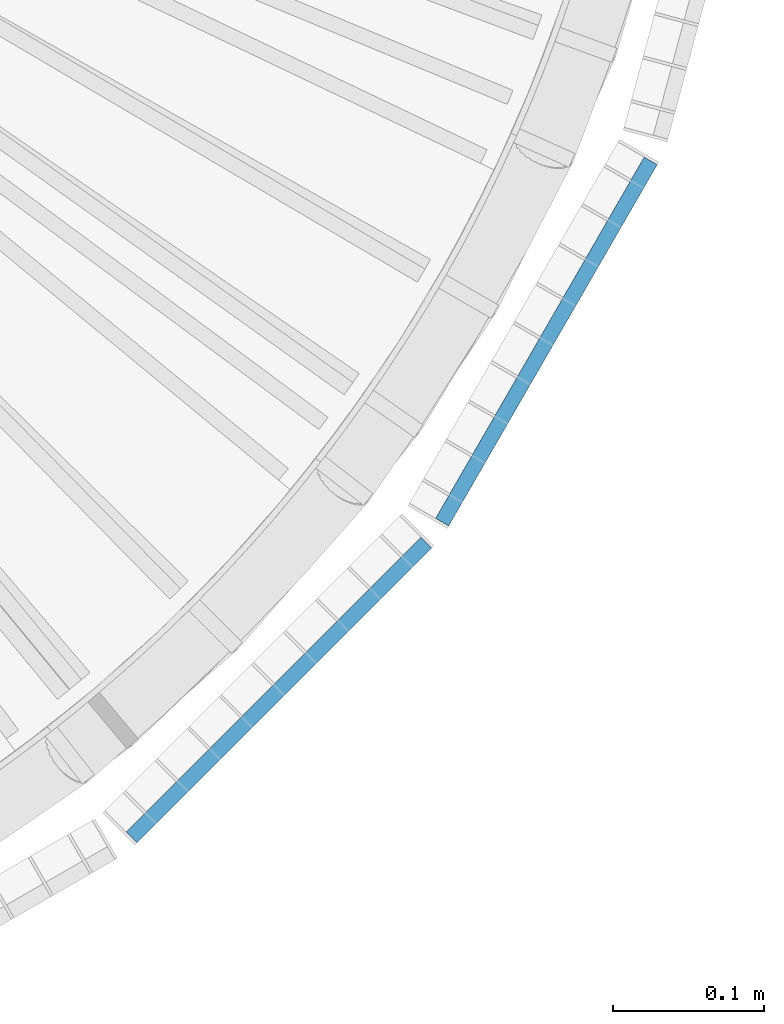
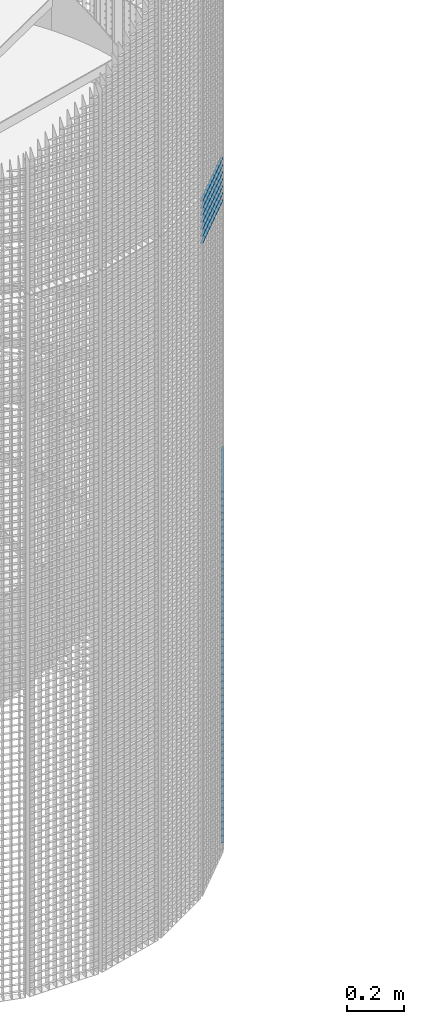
# One storey, part 266 of 1183: 58 beams, 2 elements without a shape of their own.
"""IFC2X3 building model written with IfcOpenShell, lengths in millimetres."""

from ifc_helpers import new_model, si_unit, frame, origin_with_axes, origin_2d_with_axis, place, context, subcontext, project, spatial, rectangle, extrude, material, type_object, element, aggregate, save


model = new_model("IFC2X3")

# Units and contexts
model_context = context("Model", 3, precision=1e-05, world=origin_with_axes())
body_context = subcontext(model_context, "Body", "Model", "MODEL_VIEW")
ifc_project = project(units=[si_unit("LENGTHUNIT", "METRE", prefix="MILLI"), si_unit("AREAUNIT", "SQUARE_METRE"), si_unit("VOLUMEUNIT", "CUBIC_METRE"), si_unit("MASSUNIT", "GRAM", prefix="KILO"), si_unit("TIMEUNIT", "SECOND"), si_unit("PLANEANGLEUNIT", "RADIAN"), si_unit("SOLIDANGLEUNIT", "STERADIAN"), si_unit("THERMODYNAMICTEMPERATUREUNIT", "DEGREE_CELSIUS"), si_unit("LUMINOUSINTENSITYUNIT", "LUMEN")], contexts=[model_context])

# Site, building, storey
site_placement = place(None, origin_with_axes())
site = spatial("IfcSite", under=ifc_project, at=site_placement, Name="Undefined", CompositionType="ELEMENT")
building_placement = place(site_placement, origin_with_axes())
building = spatial("IfcBuilding", under=site, at=building_placement, Name="Undefined", CompositionType="ELEMENT")
storey_placement = place(building_placement, origin_with_axes())
storey = spatial("IfcBuildingStorey", under=building, at=storey_placement, Name="Undefined", CompositionType="ELEMENT", Elevation=0.0)

# Assembly, beams
assembly_1_placement = place(storey_placement, origin_with_axes())
assembly_1 = element("IfcElementAssembly", 1, at=assembly_1_placement, inside=storey, Name="BORDURE", AssemblyPlace="NOTDEFINED", PredefinedType="NOTDEFINED")
ifc_material = material(Name="STEEL/S235JR")
beam_type = type_object("IfcBeamType", Name="PL2*10", PredefinedType="NOTDEFINED")
beam_1_placement = place(assembly_1_placement, frame((895.303964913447, -676.248044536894, 1530.0), z_axis=(0.866025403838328, -0.49999999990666, 0.0), x_axis=(0.49999999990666, 0.866025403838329, 0.0)))
beam_1 = element("IfcBeam", 2, at=beam_1_placement, type_object=beam_type, material=ifc_material, Name="ENTRETOISE", context=body_context, shape_type="SweptSolid", body=[
    extrude(rectangle(XDim=2.0, YDim=10.0, at=origin_2d_with_axis()), frame((275.999999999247, 9.09494701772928e-13, 1.53210777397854e-14), z_axis=(-1.0, 0.0, 0.0), x_axis=(0.0, -1.0, 0.0)), (0.0, 0.0, 1.0), 276.0),
])
beam_2_placement = place(assembly_1_placement, frame((895.303964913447, -676.248044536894, 1500.0), z_axis=(0.866025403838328, -0.49999999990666, 0.0), x_axis=(0.49999999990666, 0.866025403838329, 0.0)))
beam_2 = element("IfcBeam", 3, at=beam_2_placement, type_object=beam_type, material=ifc_material, Name="ENTRETOISE", context=body_context, shape_type="SweptSolid", body=[
    extrude(rectangle(XDim=2.0, YDim=10.0, at=origin_2d_with_axis()), frame((275.999999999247, 9.09494701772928e-13, 1.53210777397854e-14), z_axis=(-1.0, 0.0, 0.0), x_axis=(0.0, -1.0, 0.0)), (0.0, 0.0, 1.0), 276.0),
])
beam_3_placement = place(assembly_1_placement, frame((895.303964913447, -676.248044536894, 1470.0), z_axis=(0.866025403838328, -0.49999999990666, 0.0), x_axis=(0.49999999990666, 0.866025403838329, 0.0)))
beam_3 = element("IfcBeam", 4, at=beam_3_placement, type_object=beam_type, material=ifc_material, Name="ENTRETOISE", context=body_context, shape_type="SweptSolid", body=[
    extrude(rectangle(XDim=2.0, YDim=10.0, at=origin_2d_with_axis()), frame((275.999999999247, 9.09494701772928e-13, 1.53210777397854e-14), z_axis=(-1.0, 0.0, 0.0), x_axis=(0.0, -1.0, 0.0)), (0.0, 0.0, 1.0), 276.0),
])
beam_4_placement = place(assembly_1_placement, frame((895.303964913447, -676.248044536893, 1440.0), z_axis=(0.866025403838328, -0.49999999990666, 0.0), x_axis=(0.49999999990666, 0.866025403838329, 0.0)))
beam_4 = element("IfcBeam", 5, at=beam_4_placement, type_object=beam_type, material=ifc_material, Name="ENTRETOISE", context=body_context, shape_type="SweptSolid", body=[
    extrude(rectangle(XDim=2.0, YDim=10.0, at=origin_2d_with_axis()), frame((275.999999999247, 9.09494701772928e-13, 1.53210777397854e-14), z_axis=(-1.0, 0.0, 0.0), x_axis=(0.0, -1.0, 0.0)), (0.0, 0.0, 1.0), 276.0),
])
beam_5_placement = place(assembly_1_placement, frame((895.303964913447, -676.248044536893, 1410.0), z_axis=(0.866025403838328, -0.49999999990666, 0.0), x_axis=(0.49999999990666, 0.866025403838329, 0.0)))
beam_5 = element("IfcBeam", 6, at=beam_5_placement, type_object=beam_type, material=ifc_material, Name="ENTRETOISE", context=body_context, shape_type="SweptSolid", body=[
    extrude(rectangle(XDim=2.0, YDim=10.0, at=origin_2d_with_axis()), frame((275.999999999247, 9.09494701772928e-13, 1.53210777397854e-14), z_axis=(-1.0, 0.0, 0.0), x_axis=(0.0, -1.0, 0.0)), (0.0, 0.0, 1.0), 276.0),
])
beam_6_placement = place(assembly_1_placement, frame((895.303964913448, -676.248044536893, 1380.0), z_axis=(0.866025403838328, -0.49999999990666, 0.0), x_axis=(0.49999999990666, 0.866025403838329, 0.0)))
beam_6 = element("IfcBeam", 7, at=beam_6_placement, type_object=beam_type, material=ifc_material, Name="ENTRETOISE", context=body_context, shape_type="SweptSolid", body=[
    extrude(rectangle(XDim=2.0, YDim=10.0, at=origin_2d_with_axis()), frame((275.999999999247, 9.09494701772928e-13, 1.53210777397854e-14), z_axis=(-1.0, 0.0, 0.0), x_axis=(0.0, -1.0, 0.0)), (0.0, 0.0, 1.0), 276.0),
])
beam_7_placement = place(assembly_1_placement, frame((895.303964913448, -676.248044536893, 1350.0), z_axis=(0.866025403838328, -0.49999999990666, 0.0), x_axis=(0.49999999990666, 0.866025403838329, 0.0)))
beam_7 = element("IfcBeam", 8, at=beam_7_placement, type_object=beam_type, material=ifc_material, Name="ENTRETOISE", context=body_context, shape_type="SweptSolid", body=[
    extrude(rectangle(XDim=2.0, YDim=10.0, at=origin_2d_with_axis()), frame((275.999999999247, 9.09494701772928e-13, 1.53210777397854e-14), z_axis=(-1.0, 0.0, 0.0), x_axis=(0.0, -1.0, 0.0)), (0.0, 0.0, 1.0), 276.0),
])
beam_8_placement = place(assembly_1_placement, frame((895.303964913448, -676.248044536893, 1320.0), z_axis=(0.866025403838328, -0.49999999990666, 0.0), x_axis=(0.49999999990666, 0.866025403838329, 0.0)))
beam_8 = element("IfcBeam", 9, at=beam_8_placement, type_object=beam_type, material=ifc_material, Name="ENTRETOISE", context=body_context, shape_type="SweptSolid", body=[
    extrude(rectangle(XDim=2.0, YDim=10.0, at=origin_2d_with_axis()), frame((275.999999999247, 9.09494701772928e-13, 1.53210777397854e-14), z_axis=(-1.0, 0.0, 0.0), x_axis=(0.0, -1.0, 0.0)), (0.0, 0.0, 1.0), 276.0),
])
beam_9_placement = place(assembly_1_placement, frame((895.303964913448, -676.248044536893, 1290.0), z_axis=(0.866025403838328, -0.49999999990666, 0.0), x_axis=(0.49999999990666, 0.866025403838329, 0.0)))
beam_9 = element("IfcBeam", 10, at=beam_9_placement, type_object=beam_type, material=ifc_material, Name="ENTRETOISE", context=body_context, shape_type="SweptSolid", body=[
    extrude(rectangle(XDim=2.0, YDim=10.0, at=origin_2d_with_axis()), frame((275.999999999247, 9.09494701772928e-13, 1.53210777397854e-14), z_axis=(-1.0, 0.0, 0.0), x_axis=(0.0, -1.0, 0.0)), (0.0, 0.0, 1.0), 276.0),
])
beam_10_placement = place(assembly_1_placement, frame((895.303964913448, -676.248044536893, 1260.0), z_axis=(0.866025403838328, -0.49999999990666, 0.0), x_axis=(0.49999999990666, 0.866025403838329, 0.0)))
beam_10 = element("IfcBeam", 11, at=beam_10_placement, type_object=beam_type, material=ifc_material, Name="ENTRETOISE", context=body_context, shape_type="SweptSolid", body=[
    extrude(rectangle(XDim=2.0, YDim=10.0, at=origin_2d_with_axis()), frame((275.999999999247, 9.09494701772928e-13, 1.53210777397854e-14), z_axis=(-1.0, 0.0, 0.0), x_axis=(0.0, -1.0, 0.0)), (0.0, 0.0, 1.0), 276.0),
])
beam_11_placement = place(assembly_1_placement, frame((895.303964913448, -676.248044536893, 1230.0), z_axis=(0.866025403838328, -0.49999999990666, 0.0), x_axis=(0.49999999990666, 0.866025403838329, 0.0)))
beam_11 = element("IfcBeam", 12, at=beam_11_placement, type_object=beam_type, material=ifc_material, Name="ENTRETOISE", context=body_context, shape_type="SweptSolid", body=[
    extrude(rectangle(XDim=2.0, YDim=10.0, at=origin_2d_with_axis()), frame((275.999999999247, 9.09494701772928e-13, 1.53210777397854e-14), z_axis=(-1.0, 0.0, 0.0), x_axis=(0.0, -1.0, 0.0)), (0.0, 0.0, 1.0), 276.0),
])
beam_12_placement = place(assembly_1_placement, frame((895.303964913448, -676.248044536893, 1200.0), z_axis=(0.866025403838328, -0.49999999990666, 0.0), x_axis=(0.49999999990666, 0.866025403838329, 0.0)))
beam_12 = element("IfcBeam", 13, at=beam_12_placement, type_object=beam_type, material=ifc_material, Name="ENTRETOISE", context=body_context, shape_type="SweptSolid", body=[
    extrude(rectangle(XDim=2.0, YDim=10.0, at=origin_2d_with_axis()), frame((275.999999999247, 9.09494701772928e-13, 1.53210777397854e-14), z_axis=(-1.0, 0.0, 0.0), x_axis=(0.0, -1.0, 0.0)), (0.0, 0.0, 1.0), 276.0),
])
beam_13_placement = place(assembly_1_placement, frame((895.303964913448, -676.248044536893, 1170.0), z_axis=(0.866025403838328, -0.49999999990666, 0.0), x_axis=(0.49999999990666, 0.866025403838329, 0.0)))
beam_13 = element("IfcBeam", 14, at=beam_13_placement, type_object=beam_type, material=ifc_material, Name="ENTRETOISE", context=body_context, shape_type="SweptSolid", body=[
    extrude(rectangle(XDim=2.0, YDim=10.0, at=origin_2d_with_axis()), frame((275.999999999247, 9.09494701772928e-13, 1.53210777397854e-14), z_axis=(-1.0, 0.0, 0.0), x_axis=(0.0, -1.0, 0.0)), (0.0, 0.0, 1.0), 276.0),
])
beam_14_placement = place(assembly_1_placement, frame((895.303964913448, -676.248044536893, 1140.0), z_axis=(0.866025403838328, -0.49999999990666, 0.0), x_axis=(0.49999999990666, 0.866025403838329, 0.0)))
beam_14 = element("IfcBeam", 15, at=beam_14_placement, type_object=beam_type, material=ifc_material, Name="ENTRETOISE", context=body_context, shape_type="SweptSolid", body=[
    extrude(rectangle(XDim=2.0, YDim=10.0, at=origin_2d_with_axis()), frame((275.999999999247, 9.09494701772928e-13, 1.53210777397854e-14), z_axis=(-1.0, 0.0, 0.0), x_axis=(0.0, -1.0, 0.0)), (0.0, 0.0, 1.0), 276.0),
])
beam_15_placement = place(assembly_1_placement, frame((895.303964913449, -676.248044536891, 719.999999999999), z_axis=(0.866025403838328, -0.49999999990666, 0.0), x_axis=(0.49999999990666, 0.866025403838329, 0.0)))
beam_15 = element("IfcBeam", 16, at=beam_15_placement, type_object=beam_type, material=ifc_material, Name="ENTRETOISE", context=body_context, shape_type="SweptSolid", body=[
    extrude(rectangle(XDim=2.0, YDim=10.0, at=origin_2d_with_axis()), frame((275.999999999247, 9.09494701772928e-13, 1.53210777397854e-14), z_axis=(-1.0, 0.0, 0.0), x_axis=(0.0, -1.0, 0.0)), (0.0, 0.0, 1.0), 276.0),
])
beam_16_placement = place(assembly_1_placement, frame((895.303964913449, -676.248044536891, 689.999999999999), z_axis=(0.866025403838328, -0.49999999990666, 0.0), x_axis=(0.49999999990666, 0.866025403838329, 0.0)))
beam_16 = element("IfcBeam", 17, at=beam_16_placement, type_object=beam_type, material=ifc_material, Name="ENTRETOISE", context=body_context, shape_type="SweptSolid", body=[
    extrude(rectangle(XDim=2.0, YDim=10.0, at=origin_2d_with_axis()), frame((275.999999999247, 9.09494701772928e-13, 1.53210777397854e-14), z_axis=(-1.0, 0.0, 0.0), x_axis=(0.0, -1.0, 0.0)), (0.0, 0.0, 1.0), 276.0),
])
beam_17_placement = place(assembly_1_placement, frame((895.303964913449, -676.248044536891, 749.999999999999), z_axis=(0.866025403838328, -0.49999999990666, 0.0), x_axis=(0.49999999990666, 0.866025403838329, 0.0)))
beam_17 = element("IfcBeam", 18, at=beam_17_placement, type_object=beam_type, material=ifc_material, Name="ENTRETOISE", context=body_context, shape_type="SweptSolid", body=[
    extrude(rectangle(XDim=2.0, YDim=10.0, at=origin_2d_with_axis()), frame((275.999999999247, 9.09494701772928e-13, 1.53210777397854e-14), z_axis=(-1.0, 0.0, 0.0), x_axis=(0.0, -1.0, 0.0)), (0.0, 0.0, 1.0), 276.0),
])
beam_18_placement = place(assembly_1_placement, frame((895.303964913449, -676.248044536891, 659.999999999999), z_axis=(0.866025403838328, -0.49999999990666, 0.0), x_axis=(0.49999999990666, 0.866025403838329, 0.0)))
beam_18 = element("IfcBeam", 19, at=beam_18_placement, type_object=beam_type, material=ifc_material, Name="ENTRETOISE", context=body_context, shape_type="SweptSolid", body=[
    extrude(rectangle(XDim=2.0, YDim=10.0, at=origin_2d_with_axis()), frame((275.999999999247, 9.09494701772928e-13, 1.53210777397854e-14), z_axis=(-1.0, 0.0, 0.0), x_axis=(0.0, -1.0, 0.0)), (0.0, 0.0, 1.0), 276.0),
])
beam_19_placement = place(assembly_1_placement, frame((895.303964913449, -676.248044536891, 629.999999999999), z_axis=(0.866025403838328, -0.49999999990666, 0.0), x_axis=(0.49999999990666, 0.866025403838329, 0.0)))
beam_19 = element("IfcBeam", 20, at=beam_19_placement, type_object=beam_type, material=ifc_material, Name="ENTRETOISE", context=body_context, shape_type="SweptSolid", body=[
    extrude(rectangle(XDim=2.0, YDim=10.0, at=origin_2d_with_axis()), frame((275.999999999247, 9.09494701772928e-13, 1.53210777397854e-14), z_axis=(-1.0, 0.0, 0.0), x_axis=(0.0, -1.0, 0.0)), (0.0, 0.0, 1.0), 276.0),
])
beam_20_placement = place(assembly_1_placement, frame((895.303964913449, -676.248044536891, 779.999999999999), z_axis=(0.866025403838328, -0.49999999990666, 0.0), x_axis=(0.49999999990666, 0.866025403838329, 0.0)))
beam_20 = element("IfcBeam", 21, at=beam_20_placement, type_object=beam_type, material=ifc_material, Name="ENTRETOISE", context=body_context, shape_type="SweptSolid", body=[
    extrude(rectangle(XDim=2.0, YDim=10.0, at=origin_2d_with_axis()), frame((275.999999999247, 9.09494701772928e-13, 1.53210777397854e-14), z_axis=(-1.0, 0.0, 0.0), x_axis=(0.0, -1.0, 0.0)), (0.0, 0.0, 1.0), 276.0),
])
beam_21_placement = place(assembly_1_placement, frame((895.303964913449, -676.248044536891, 599.999999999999), z_axis=(0.866025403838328, -0.49999999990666, 0.0), x_axis=(0.49999999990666, 0.866025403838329, 0.0)))
beam_21 = element("IfcBeam", 22, at=beam_21_placement, type_object=beam_type, material=ifc_material, Name="ENTRETOISE", context=body_context, shape_type="SweptSolid", body=[
    extrude(rectangle(XDim=2.0, YDim=10.0, at=origin_2d_with_axis()), frame((275.999999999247, 9.09494701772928e-13, 1.53210777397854e-14), z_axis=(-1.0, 0.0, 0.0), x_axis=(0.0, -1.0, 0.0)), (0.0, 0.0, 1.0), 276.0),
])
beam_22_placement = place(assembly_1_placement, frame((895.303964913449, -676.248044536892, 809.999999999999), z_axis=(0.866025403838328, -0.49999999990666, 0.0), x_axis=(0.49999999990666, 0.866025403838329, 0.0)))
beam_22 = element("IfcBeam", 23, at=beam_22_placement, type_object=beam_type, material=ifc_material, Name="ENTRETOISE", context=body_context, shape_type="SweptSolid", body=[
    extrude(rectangle(XDim=2.0, YDim=10.0, at=origin_2d_with_axis()), frame((275.999999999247, 9.09494701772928e-13, 1.53210777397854e-14), z_axis=(-1.0, 0.0, 0.0), x_axis=(0.0, -1.0, 0.0)), (0.0, 0.0, 1.0), 276.0),
])
beam_23_placement = place(assembly_1_placement, frame((895.30396491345, -676.248044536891, 569.999999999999), z_axis=(0.866025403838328, -0.49999999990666, 0.0), x_axis=(0.49999999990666, 0.866025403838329, 0.0)))
beam_23 = element("IfcBeam", 24, at=beam_23_placement, type_object=beam_type, material=ifc_material, Name="ENTRETOISE", context=body_context, shape_type="SweptSolid", body=[
    extrude(rectangle(XDim=2.0, YDim=10.0, at=origin_2d_with_axis()), frame((275.999999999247, 9.09494701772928e-13, 1.53210777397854e-14), z_axis=(-1.0, 0.0, 0.0), x_axis=(0.0, -1.0, 0.0)), (0.0, 0.0, 1.0), 276.0),
])
beam_24_placement = place(assembly_1_placement, frame((895.30396491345, -676.248044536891, 539.999999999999), z_axis=(0.866025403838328, -0.49999999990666, 0.0), x_axis=(0.49999999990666, 0.866025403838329, 0.0)))
beam_24 = element("IfcBeam", 25, at=beam_24_placement, type_object=beam_type, material=ifc_material, Name="ENTRETOISE", context=body_context, shape_type="SweptSolid", body=[
    extrude(rectangle(XDim=2.0, YDim=10.0, at=origin_2d_with_axis()), frame((275.999999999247, 9.09494701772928e-13, 1.53210777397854e-14), z_axis=(-1.0, 0.0, 0.0), x_axis=(0.0, -1.0, 0.0)), (0.0, 0.0, 1.0), 276.0),
])
beam_25_placement = place(assembly_1_placement, frame((895.303964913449, -676.248044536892, 839.999999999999), z_axis=(0.866025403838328, -0.49999999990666, 0.0), x_axis=(0.49999999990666, 0.866025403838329, 0.0)))
beam_25 = element("IfcBeam", 26, at=beam_25_placement, type_object=beam_type, material=ifc_material, Name="ENTRETOISE", context=body_context, shape_type="SweptSolid", body=[
    extrude(rectangle(XDim=2.0, YDim=10.0, at=origin_2d_with_axis()), frame((275.999999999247, 9.09494701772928e-13, 1.53210777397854e-14), z_axis=(-1.0, 0.0, 0.0), x_axis=(0.0, -1.0, 0.0)), (0.0, 0.0, 1.0), 276.0),
])
beam_26_placement = place(assembly_1_placement, frame((895.303964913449, -676.248044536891, 509.999999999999), z_axis=(0.866025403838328, -0.49999999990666, 0.0), x_axis=(0.49999999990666, 0.866025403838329, 0.0)))
beam_26 = element("IfcBeam", 27, at=beam_26_placement, type_object=beam_type, material=ifc_material, Name="ENTRETOISE", context=body_context, shape_type="SweptSolid", body=[
    extrude(rectangle(XDim=2.0, YDim=10.0, at=origin_2d_with_axis()), frame((275.999999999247, 9.09494701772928e-13, 1.53210777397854e-14), z_axis=(-1.0, 0.0, 0.0), x_axis=(0.0, -1.0, 0.0)), (0.0, 0.0, 1.0), 276.0),
])
beam_27_placement = place(assembly_1_placement, frame((895.303964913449, -676.248044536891, 479.999999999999), z_axis=(0.866025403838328, -0.49999999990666, 0.0), x_axis=(0.49999999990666, 0.866025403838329, 0.0)))
beam_27 = element("IfcBeam", 28, at=beam_27_placement, type_object=beam_type, material=ifc_material, Name="ENTRETOISE", context=body_context, shape_type="SweptSolid", body=[
    extrude(rectangle(XDim=2.0, YDim=10.0, at=origin_2d_with_axis()), frame((275.999999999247, 9.09494701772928e-13, 1.53210777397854e-14), z_axis=(-1.0, 0.0, 0.0), x_axis=(0.0, -1.0, 0.0)), (0.0, 0.0, 1.0), 276.0),
])
beam_28_placement = place(assembly_1_placement, frame((895.303964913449, -676.248044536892, 869.999999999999), z_axis=(0.866025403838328, -0.49999999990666, 0.0), x_axis=(0.49999999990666, 0.866025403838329, 0.0)))
beam_28 = element("IfcBeam", 29, at=beam_28_placement, type_object=beam_type, material=ifc_material, Name="ENTRETOISE", context=body_context, shape_type="SweptSolid", body=[
    extrude(rectangle(XDim=2.0, YDim=10.0, at=origin_2d_with_axis()), frame((275.999999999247, 9.09494701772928e-13, 1.53210777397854e-14), z_axis=(-1.0, 0.0, 0.0), x_axis=(0.0, -1.0, 0.0)), (0.0, 0.0, 1.0), 276.0),
])
beam_29_placement = place(assembly_1_placement, frame((895.30396491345, -676.248044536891, 449.999999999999), z_axis=(0.866025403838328, -0.49999999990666, 0.0), x_axis=(0.49999999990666, 0.866025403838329, 0.0)))
beam_29 = element("IfcBeam", 30, at=beam_29_placement, type_object=beam_type, material=ifc_material, Name="ENTRETOISE", context=body_context, shape_type="SweptSolid", body=[
    extrude(rectangle(XDim=2.0, YDim=10.0, at=origin_2d_with_axis()), frame((275.999999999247, 9.09494701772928e-13, 1.53210777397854e-14), z_axis=(-1.0, 0.0, 0.0), x_axis=(0.0, -1.0, 0.0)), (0.0, 0.0, 1.0), 276.0),
])
beam_30_placement = place(assembly_1_placement, frame((895.30396491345, -676.24804453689, 419.999999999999), z_axis=(0.866025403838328, -0.49999999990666, 0.0), x_axis=(0.49999999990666, 0.866025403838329, 0.0)))
beam_30 = element("IfcBeam", 31, at=beam_30_placement, type_object=beam_type, material=ifc_material, Name="ENTRETOISE", context=body_context, shape_type="SweptSolid", body=[
    extrude(rectangle(XDim=2.0, YDim=10.0, at=origin_2d_with_axis()), frame((275.999999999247, 9.09494701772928e-13, 1.53210777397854e-14), z_axis=(-1.0, 0.0, 0.0), x_axis=(0.0, -1.0, 0.0)), (0.0, 0.0, 1.0), 276.0),
])
beam_31_placement = place(assembly_1_placement, frame((895.303964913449, -676.248044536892, 899.999999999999), z_axis=(0.866025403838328, -0.49999999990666, 0.0), x_axis=(0.49999999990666, 0.866025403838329, 0.0)))
beam_31 = element("IfcBeam", 32, at=beam_31_placement, type_object=beam_type, material=ifc_material, Name="ENTRETOISE", context=body_context, shape_type="SweptSolid", body=[
    extrude(rectangle(XDim=2.0, YDim=10.0, at=origin_2d_with_axis()), frame((275.999999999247, 9.09494701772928e-13, 1.53210777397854e-14), z_axis=(-1.0, 0.0, 0.0), x_axis=(0.0, -1.0, 0.0)), (0.0, 0.0, 1.0), 276.0),
])
beam_32_placement = place(assembly_1_placement, frame((895.30396491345, -676.24804453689, 389.999999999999), z_axis=(0.866025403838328, -0.49999999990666, 0.0), x_axis=(0.49999999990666, 0.866025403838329, 0.0)))
beam_32 = element("IfcBeam", 33, at=beam_32_placement, type_object=beam_type, material=ifc_material, Name="ENTRETOISE", context=body_context, shape_type="SweptSolid", body=[
    extrude(rectangle(XDim=2.0, YDim=10.0, at=origin_2d_with_axis()), frame((275.999999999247, 9.09494701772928e-13, 1.53210777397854e-14), z_axis=(-1.0, 0.0, 0.0), x_axis=(0.0, -1.0, 0.0)), (0.0, 0.0, 1.0), 276.0),
])
beam_33_placement = place(assembly_1_placement, frame((895.303964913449, -676.248044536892, 929.999999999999), z_axis=(0.866025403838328, -0.49999999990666, 0.0), x_axis=(0.49999999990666, 0.866025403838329, 0.0)))
beam_33 = element("IfcBeam", 34, at=beam_33_placement, type_object=beam_type, material=ifc_material, Name="ENTRETOISE", context=body_context, shape_type="SweptSolid", body=[
    extrude(rectangle(XDim=2.0, YDim=10.0, at=origin_2d_with_axis()), frame((275.999999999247, 9.09494701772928e-13, 1.53210777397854e-14), z_axis=(-1.0, 0.0, 0.0), x_axis=(0.0, -1.0, 0.0)), (0.0, 0.0, 1.0), 276.0),
])
beam_34_placement = place(assembly_1_placement, frame((895.30396491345, -676.24804453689, 359.999999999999), z_axis=(0.866025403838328, -0.49999999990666, 0.0), x_axis=(0.49999999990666, 0.866025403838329, 0.0)))
beam_34 = element("IfcBeam", 35, at=beam_34_placement, type_object=beam_type, material=ifc_material, Name="ENTRETOISE", context=body_context, shape_type="SweptSolid", body=[
    extrude(rectangle(XDim=2.0, YDim=10.0, at=origin_2d_with_axis()), frame((275.999999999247, 9.09494701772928e-13, 1.53210777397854e-14), z_axis=(-1.0, 0.0, 0.0), x_axis=(0.0, -1.0, 0.0)), (0.0, 0.0, 1.0), 276.0),
])
beam_35_placement = place(assembly_1_placement, frame((895.30396491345, -676.24804453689, 329.999999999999), z_axis=(0.866025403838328, -0.49999999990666, 0.0), x_axis=(0.49999999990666, 0.866025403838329, 0.0)))
beam_35 = element("IfcBeam", 36, at=beam_35_placement, type_object=beam_type, material=ifc_material, Name="ENTRETOISE", context=body_context, shape_type="SweptSolid", body=[
    extrude(rectangle(XDim=2.0, YDim=10.0, at=origin_2d_with_axis()), frame((275.999999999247, 9.09494701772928e-13, 1.53210777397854e-14), z_axis=(-1.0, 0.0, 0.0), x_axis=(0.0, -1.0, 0.0)), (0.0, 0.0, 1.0), 276.0),
])
beam_36_placement = place(assembly_1_placement, frame((895.303964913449, -676.248044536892, 959.999999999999), z_axis=(0.866025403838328, -0.49999999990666, 0.0), x_axis=(0.49999999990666, 0.866025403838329, 0.0)))
beam_36 = element("IfcBeam", 37, at=beam_36_placement, type_object=beam_type, material=ifc_material, Name="ENTRETOISE", context=body_context, shape_type="SweptSolid", body=[
    extrude(rectangle(XDim=2.0, YDim=10.0, at=origin_2d_with_axis()), frame((275.999999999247, 9.09494701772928e-13, 1.53210777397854e-14), z_axis=(-1.0, 0.0, 0.0), x_axis=(0.0, -1.0, 0.0)), (0.0, 0.0, 1.0), 276.0),
])
beam_37_placement = place(assembly_1_placement, frame((895.30396491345, -676.24804453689, 299.999999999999), z_axis=(0.866025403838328, -0.49999999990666, 0.0), x_axis=(0.49999999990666, 0.866025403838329, 0.0)))
beam_37 = element("IfcBeam", 38, at=beam_37_placement, type_object=beam_type, material=ifc_material, Name="ENTRETOISE", context=body_context, shape_type="SweptSolid", body=[
    extrude(rectangle(XDim=2.0, YDim=10.0, at=origin_2d_with_axis()), frame((275.999999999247, 9.09494701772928e-13, 1.53210777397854e-14), z_axis=(-1.0, 0.0, 0.0), x_axis=(0.0, -1.0, 0.0)), (0.0, 0.0, 1.0), 276.0),
])
beam_38_placement = place(assembly_1_placement, frame((895.30396491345, -676.24804453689, 269.999999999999), z_axis=(0.866025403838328, -0.49999999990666, 0.0), x_axis=(0.49999999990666, 0.866025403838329, 0.0)))
beam_38 = element("IfcBeam", 39, at=beam_38_placement, type_object=beam_type, material=ifc_material, Name="ENTRETOISE", context=body_context, shape_type="SweptSolid", body=[
    extrude(rectangle(XDim=2.0, YDim=10.0, at=origin_2d_with_axis()), frame((275.999999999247, 9.09494701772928e-13, 1.53210777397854e-14), z_axis=(-1.0, 0.0, 0.0), x_axis=(0.0, -1.0, 0.0)), (0.0, 0.0, 1.0), 276.0),
])
beam_39_placement = place(assembly_1_placement, frame((895.303964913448, -676.248044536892, 989.999999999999), z_axis=(0.866025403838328, -0.49999999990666, 0.0), x_axis=(0.49999999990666, 0.866025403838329, 0.0)))
beam_39 = element("IfcBeam", 40, at=beam_39_placement, type_object=beam_type, material=ifc_material, Name="ENTRETOISE", context=body_context, shape_type="SweptSolid", body=[
    extrude(rectangle(XDim=2.0, YDim=10.0, at=origin_2d_with_axis()), frame((275.999999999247, 9.09494701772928e-13, 1.53210777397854e-14), z_axis=(-1.0, 0.0, 0.0), x_axis=(0.0, -1.0, 0.0)), (0.0, 0.0, 1.0), 276.0),
])
beam_40_placement = place(assembly_1_placement, frame((895.30396491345, -676.24804453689, 239.999999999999), z_axis=(0.866025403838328, -0.49999999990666, 0.0), x_axis=(0.49999999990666, 0.866025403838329, 0.0)))
beam_40 = element("IfcBeam", 41, at=beam_40_placement, type_object=beam_type, material=ifc_material, Name="ENTRETOISE", context=body_context, shape_type="SweptSolid", body=[
    extrude(rectangle(XDim=2.0, YDim=10.0, at=origin_2d_with_axis()), frame((275.999999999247, 9.09494701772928e-13, 1.53210777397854e-14), z_axis=(-1.0, 0.0, 0.0), x_axis=(0.0, -1.0, 0.0)), (0.0, 0.0, 1.0), 276.0),
])
beam_41_placement = place(assembly_1_placement, frame((895.303964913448, -676.248044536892, 1020.0), z_axis=(0.866025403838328, -0.49999999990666, 0.0), x_axis=(0.49999999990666, 0.866025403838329, 0.0)))
beam_41 = element("IfcBeam", 42, at=beam_41_placement, type_object=beam_type, material=ifc_material, Name="ENTRETOISE", context=body_context, shape_type="SweptSolid", body=[
    extrude(rectangle(XDim=2.0, YDim=10.0, at=origin_2d_with_axis()), frame((275.999999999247, 9.09494701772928e-13, 1.53210777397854e-14), z_axis=(-1.0, 0.0, 0.0), x_axis=(0.0, -1.0, 0.0)), (0.0, 0.0, 1.0), 276.0),
])
beam_42_placement = place(assembly_1_placement, frame((895.30396491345, -676.24804453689, 209.999999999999), z_axis=(0.866025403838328, -0.49999999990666, 0.0), x_axis=(0.49999999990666, 0.866025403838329, 0.0)))
beam_42 = element("IfcBeam", 43, at=beam_42_placement, type_object=beam_type, material=ifc_material, Name="ENTRETOISE", context=body_context, shape_type="SweptSolid", body=[
    extrude(rectangle(XDim=2.0, YDim=10.0, at=origin_2d_with_axis()), frame((275.999999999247, 9.09494701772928e-13, 1.53210777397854e-14), z_axis=(-1.0, 0.0, 0.0), x_axis=(0.0, -1.0, 0.0)), (0.0, 0.0, 1.0), 276.0),
])
beam_43_placement = place(assembly_1_placement, frame((895.30396491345, -676.24804453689, 179.999999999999), z_axis=(0.866025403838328, -0.49999999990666, 0.0), x_axis=(0.49999999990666, 0.866025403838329, 0.0)))
beam_43 = element("IfcBeam", 44, at=beam_43_placement, type_object=beam_type, material=ifc_material, Name="ENTRETOISE", context=body_context, shape_type="SweptSolid", body=[
    extrude(rectangle(XDim=2.0, YDim=10.0, at=origin_2d_with_axis()), frame((275.999999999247, 9.09494701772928e-13, 1.53210777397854e-14), z_axis=(-1.0, 0.0, 0.0), x_axis=(0.0, -1.0, 0.0)), (0.0, 0.0, 1.0), 276.0),
])
beam_44_placement = place(assembly_1_placement, frame((895.303964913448, -676.248044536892, 1050.0), z_axis=(0.866025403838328, -0.49999999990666, 0.0), x_axis=(0.49999999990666, 0.866025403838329, 0.0)))
beam_44 = element("IfcBeam", 45, at=beam_44_placement, type_object=beam_type, material=ifc_material, Name="ENTRETOISE", context=body_context, shape_type="SweptSolid", body=[
    extrude(rectangle(XDim=2.0, YDim=10.0, at=origin_2d_with_axis()), frame((275.999999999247, 9.09494701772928e-13, 1.53210777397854e-14), z_axis=(-1.0, 0.0, 0.0), x_axis=(0.0, -1.0, 0.0)), (0.0, 0.0, 1.0), 276.0),
])
beam_45_placement = place(assembly_1_placement, frame((895.30396491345, -676.24804453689, 149.999999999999), z_axis=(0.866025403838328, -0.49999999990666, 0.0), x_axis=(0.49999999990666, 0.866025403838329, 0.0)))
beam_45 = element("IfcBeam", 46, at=beam_45_placement, type_object=beam_type, material=ifc_material, Name="ENTRETOISE", context=body_context, shape_type="SweptSolid", body=[
    extrude(rectangle(XDim=2.0, YDim=10.0, at=origin_2d_with_axis()), frame((275.999999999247, 9.09494701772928e-13, 1.53210777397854e-14), z_axis=(-1.0, 0.0, 0.0), x_axis=(0.0, -1.0, 0.0)), (0.0, 0.0, 1.0), 276.0),
])
beam_46_placement = place(assembly_1_placement, frame((895.30396491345, -676.24804453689, 119.999999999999), z_axis=(0.866025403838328, -0.49999999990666, 0.0), x_axis=(0.49999999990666, 0.866025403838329, 0.0)))
beam_46 = element("IfcBeam", 47, at=beam_46_placement, type_object=beam_type, material=ifc_material, Name="ENTRETOISE", context=body_context, shape_type="SweptSolid", body=[
    extrude(rectangle(XDim=2.0, YDim=10.0, at=origin_2d_with_axis()), frame((275.999999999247, 9.09494701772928e-13, 1.53210777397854e-14), z_axis=(-1.0, 0.0, 0.0), x_axis=(0.0, -1.0, 0.0)), (0.0, 0.0, 1.0), 276.0),
])
beam_47_placement = place(assembly_1_placement, frame((895.303964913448, -676.248044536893, 1080.0), z_axis=(0.866025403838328, -0.49999999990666, 0.0), x_axis=(0.49999999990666, 0.866025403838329, 0.0)))
beam_47 = element("IfcBeam", 48, at=beam_47_placement, type_object=beam_type, material=ifc_material, Name="ENTRETOISE", context=body_context, shape_type="SweptSolid", body=[
    extrude(rectangle(XDim=2.0, YDim=10.0, at=origin_2d_with_axis()), frame((275.999999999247, 9.09494701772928e-13, 1.53210777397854e-14), z_axis=(-1.0, 0.0, 0.0), x_axis=(0.0, -1.0, 0.0)), (0.0, 0.0, 1.0), 276.0),
])
beam_48_placement = place(assembly_1_placement, frame((895.30396491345, -676.248044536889, 89.9999999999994), z_axis=(0.866025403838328, -0.49999999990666, 0.0), x_axis=(0.49999999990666, 0.866025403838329, 0.0)))
beam_48 = element("IfcBeam", 49, at=beam_48_placement, type_object=beam_type, material=ifc_material, Name="ENTRETOISE", context=body_context, shape_type="SweptSolid", body=[
    extrude(rectangle(XDim=2.0, YDim=10.0, at=origin_2d_with_axis()), frame((275.999999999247, 9.09494701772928e-13, 1.53210777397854e-14), z_axis=(-1.0, 0.0, 0.0), x_axis=(0.0, -1.0, 0.0)), (0.0, 0.0, 1.0), 276.0),
])
beam_49_placement = place(assembly_1_placement, frame((895.30396491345, -676.248044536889, 59.9999999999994), z_axis=(0.866025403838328, -0.49999999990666, 0.0), x_axis=(0.49999999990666, 0.866025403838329, 0.0)))
beam_49 = element("IfcBeam", 50, at=beam_49_placement, type_object=beam_type, material=ifc_material, Name="ENTRETOISE", context=body_context, shape_type="SweptSolid", body=[
    extrude(rectangle(XDim=2.0, YDim=10.0, at=origin_2d_with_axis()), frame((275.999999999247, 9.09494701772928e-13, 1.53210777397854e-14), z_axis=(-1.0, 0.0, 0.0), x_axis=(0.0, -1.0, 0.0)), (0.0, 0.0, 1.0), 276.0),
])
beam_50_placement = place(assembly_1_placement, frame((895.303964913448, -676.248044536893, 1110.0), z_axis=(0.866025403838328, -0.49999999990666, 0.0), x_axis=(0.49999999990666, 0.866025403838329, 0.0)))
beam_50 = element("IfcBeam", 51, at=beam_50_placement, type_object=beam_type, material=ifc_material, Name="ENTRETOISE", context=body_context, shape_type="SweptSolid", body=[
    extrude(rectangle(XDim=2.0, YDim=10.0, at=origin_2d_with_axis()), frame((275.999999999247, 9.09494701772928e-13, 1.53210777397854e-14), z_axis=(-1.0, 0.0, 0.0), x_axis=(0.0, -1.0, 0.0)), (0.0, 0.0, 1.0), 276.0),
])
beam_51_placement = place(assembly_1_placement, frame((895.30396491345, -676.248044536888, 29.9999999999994), z_axis=(0.866025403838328, -0.49999999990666, 0.0), x_axis=(0.49999999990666, 0.866025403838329, 0.0)))
beam_51 = element("IfcBeam", 52, at=beam_51_placement, type_object=beam_type, material=ifc_material, Name="ENTRETOISE", context=body_context, shape_type="SweptSolid", body=[
    extrude(rectangle(XDim=2.0, YDim=10.0, at=origin_2d_with_axis()), frame((275.999999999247, 9.09494701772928e-13, 1.53210777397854e-14), z_axis=(-1.0, 0.0, 0.0), x_axis=(0.0, -1.0, 0.0)), (0.0, 0.0, 1.0), 276.0),
])
aggregate(assembly_1, [beam_1, beam_2, beam_3, beam_4, beam_5, beam_6, beam_7, beam_8, beam_9, beam_10, beam_11, beam_12, beam_13, beam_14, beam_15, beam_16, beam_17, beam_18, beam_19, beam_20, beam_21, beam_22, beam_23, beam_24, beam_25, beam_26, beam_27, beam_28, beam_29, beam_30, beam_31, beam_32, beam_33, beam_34, beam_35, beam_36, beam_37, beam_38, beam_39, beam_40, beam_41, beam_42, beam_43, beam_44, beam_45, beam_46, beam_47, beam_48, beam_49, beam_50, beam_51])

assembly_2_placement = place(storey_placement, origin_with_axes())
assembly_2 = element("IfcElementAssembly", 53, at=assembly_2_placement, inside=storey, Name="BORDURE", AssemblyPlace="NOTDEFINED", PredefinedType="NOTDEFINED")
beam_52_placement = place(assembly_2_placement, frame((689.771348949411, -884.927168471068, 2970.0), z_axis=(0.707106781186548, -0.707106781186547, 0.0), x_axis=(0.707106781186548, 0.707106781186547, 0.0)))
beam_52 = element("IfcBeam", 54, at=beam_52_placement, type_object=beam_type, material=ifc_material, Name="ENTRETOISE", context=body_context, shape_type="SweptSolid", body=[
    extrude(rectangle(XDim=2.0, YDim=10.0, at=origin_2d_with_axis()), frame((275.999999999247, 9.09494701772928e-13, 1.53210777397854e-14), z_axis=(-1.0, 0.0, 0.0), x_axis=(0.0, -1.0, 0.0)), (0.0, 0.0, 1.0), 276.0),
])
beam_53_placement = place(assembly_2_placement, frame((689.771348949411, -884.927168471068, 2940.0), z_axis=(0.707106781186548, -0.707106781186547, 0.0), x_axis=(0.707106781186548, 0.707106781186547, 0.0)))
beam_53 = element("IfcBeam", 55, at=beam_53_placement, type_object=beam_type, material=ifc_material, Name="ENTRETOISE", context=body_context, shape_type="SweptSolid", body=[
    extrude(rectangle(XDim=2.0, YDim=10.0, at=origin_2d_with_axis()), frame((275.999999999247, 9.09494701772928e-13, 1.53210777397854e-14), z_axis=(-1.0, 0.0, 0.0), x_axis=(0.0, -1.0, 0.0)), (0.0, 0.0, 1.0), 276.0),
])
beam_54_placement = place(assembly_2_placement, frame((689.771348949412, -884.927168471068, 2910.0), z_axis=(0.707106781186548, -0.707106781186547, 0.0), x_axis=(0.707106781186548, 0.707106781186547, 0.0)))
beam_54 = element("IfcBeam", 56, at=beam_54_placement, type_object=beam_type, material=ifc_material, Name="ENTRETOISE", context=body_context, shape_type="SweptSolid", body=[
    extrude(rectangle(XDim=2.0, YDim=10.0, at=origin_2d_with_axis()), frame((275.999999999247, 9.09494701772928e-13, 1.53210777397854e-14), z_axis=(-1.0, 0.0, 0.0), x_axis=(0.0, -1.0, 0.0)), (0.0, 0.0, 1.0), 276.0),
])
beam_55_placement = place(assembly_2_placement, frame((689.771348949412, -884.927168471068, 2880.0), z_axis=(0.707106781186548, -0.707106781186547, 0.0), x_axis=(0.707106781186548, 0.707106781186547, 0.0)))
beam_55 = element("IfcBeam", 57, at=beam_55_placement, type_object=beam_type, material=ifc_material, Name="ENTRETOISE", context=body_context, shape_type="SweptSolid", body=[
    extrude(rectangle(XDim=2.0, YDim=10.0, at=origin_2d_with_axis()), frame((275.999999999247, 9.09494701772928e-13, 1.53210777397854e-14), z_axis=(-1.0, 0.0, 0.0), x_axis=(0.0, -1.0, 0.0)), (0.0, 0.0, 1.0), 276.0),
])
beam_56_placement = place(assembly_2_placement, frame((689.771348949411, -884.927168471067, 2850.0), z_axis=(0.707106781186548, -0.707106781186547, 0.0), x_axis=(0.707106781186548, 0.707106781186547, 0.0)))
beam_56 = element("IfcBeam", 58, at=beam_56_placement, type_object=beam_type, material=ifc_material, Name="ENTRETOISE", context=body_context, shape_type="SweptSolid", body=[
    extrude(rectangle(XDim=2.0, YDim=10.0, at=origin_2d_with_axis()), frame((275.999999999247, 9.09494701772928e-13, 1.53210777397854e-14), z_axis=(-1.0, 0.0, 0.0), x_axis=(0.0, -1.0, 0.0)), (0.0, 0.0, 1.0), 276.0),
])
beam_57_placement = place(assembly_2_placement, frame((689.771348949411, -884.927168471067, 2820.0), z_axis=(0.707106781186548, -0.707106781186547, 0.0), x_axis=(0.707106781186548, 0.707106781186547, 0.0)))
beam_57 = element("IfcBeam", 59, at=beam_57_placement, type_object=beam_type, material=ifc_material, Name="ENTRETOISE", context=body_context, shape_type="SweptSolid", body=[
    extrude(rectangle(XDim=2.0, YDim=10.0, at=origin_2d_with_axis()), frame((275.999999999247, 9.09494701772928e-13, 1.53210777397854e-14), z_axis=(-1.0, 0.0, 0.0), x_axis=(0.0, -1.0, 0.0)), (0.0, 0.0, 1.0), 276.0),
])
beam_58_placement = place(assembly_2_placement, frame((689.771348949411, -884.927168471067, 2790.0), z_axis=(0.707106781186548, -0.707106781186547, 0.0), x_axis=(0.707106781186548, 0.707106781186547, 0.0)))
beam_58 = element("IfcBeam", 60, at=beam_58_placement, type_object=beam_type, material=ifc_material, Name="ENTRETOISE", context=body_context, shape_type="SweptSolid", body=[
    extrude(rectangle(XDim=2.0, YDim=10.0, at=origin_2d_with_axis()), frame((275.999999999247, 9.09494701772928e-13, 1.53210777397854e-14), z_axis=(-1.0, 0.0, 0.0), x_axis=(0.0, -1.0, 0.0)), (0.0, 0.0, 1.0), 276.0),
])
aggregate(assembly_2, [beam_52, beam_53, beam_54, beam_55, beam_56, beam_57, beam_58])

save(model, "model.ifc")
